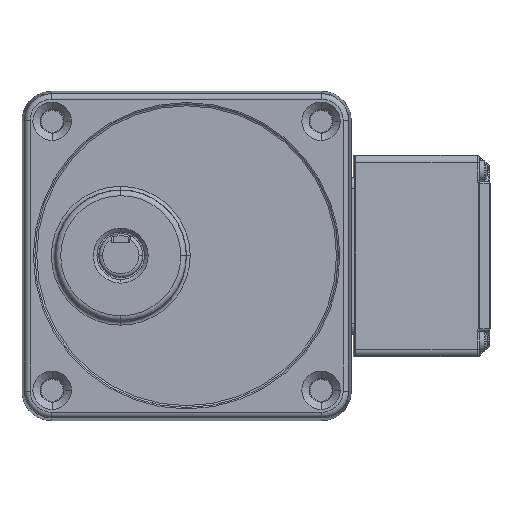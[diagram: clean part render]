
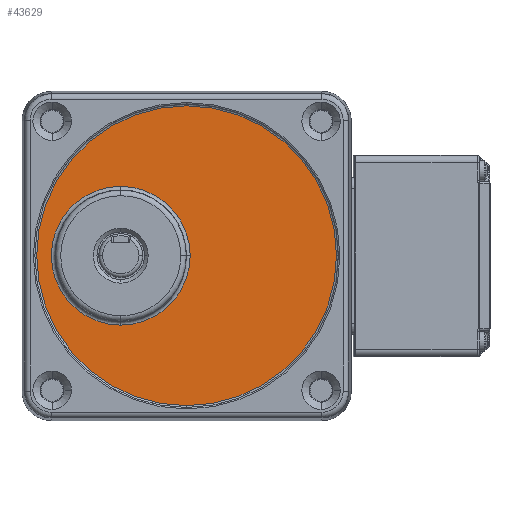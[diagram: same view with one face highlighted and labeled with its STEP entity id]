
A CAD part, top view. The second image highlights one B-rep face of the part: STEP entity #43629.
In plain terms, the highlighted planar face has unit normal (0, 0, 1) as drawn and (1, 0, 0) by its records, which use the part's own axes.
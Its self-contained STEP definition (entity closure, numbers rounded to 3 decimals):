
#70 = PLANE ( 'NONE',  #57368 ) ;
#2311 = CIRCLE ( 'NONE', #15522, 18.983 ) ;
#2531 = DIRECTION ( 'NONE',  ( 0., 0., 1. ) ) ;
#3160 = CARTESIAN_POINT ( 'NONE',  ( 2679.792, -734.166, 0. ) ) ;
#4169 = ORIENTED_EDGE ( 'NONE', *, *, #16646, .F. ) ;
#6686 = CARTESIAN_POINT ( 'NONE',  ( 2679.792, -775.157, 0. ) ) ;
#8370 = FACE_BOUND ( 'NONE', #57236, .T. ) ;
#10057 = VERTEX_POINT ( 'NONE', #53554 ) ;
#13819 = DIRECTION ( 'NONE',  ( 1., 0., 0. ) ) ;
#14478 = CARTESIAN_POINT ( 'NONE',  ( 2679.792, -793.157, 18.983 ) ) ;
#14582 = CARTESIAN_POINT ( 'NONE',  ( 2679.792, -775.157, 40.991 ) ) ;
#15522 = AXIS2_PLACEMENT_3D ( 'NONE', #36552, #45679, #23847 ) ;
#16209 = AXIS2_PLACEMENT_3D ( 'NONE', #18816, #13819, #36541 ) ;
#16300 = CARTESIAN_POINT ( 'NONE',  ( 2679.792, -793.157, -18.983 ) ) ;
#16646 = EDGE_CURVE ( 'NONE', #33487, #39822, #19887, .T. ) ;
#17674 = EDGE_CURVE ( 'NONE', #20891, #10057, #20013, .T. ) ;
#18816 = CARTESIAN_POINT ( 'NONE',  ( 2679.792, -793.157, 0. ) ) ;
#19615 = DIRECTION ( 'NONE',  ( 0., 0., -1. ) ) ;
#19887 = CIRCLE ( 'NONE', #50024, 40.991 ) ;
#20013 = CIRCLE ( 'NONE', #16209, 18.983 ) ;
#20025 = CIRCLE ( 'NONE', #26633, 40.991 ) ;
#20891 = VERTEX_POINT ( 'NONE', #16300 ) ;
#21372 = FACE_OUTER_BOUND ( 'NONE', #30770, .T. ) ;
#23758 = CARTESIAN_POINT ( 'NONE',  ( 2679.792, -793.157, 0. ) ) ;
#23847 = DIRECTION ( 'NONE',  ( 0., 0., 1. ) ) ;
#24052 = DIRECTION ( 'NONE',  ( 1., 0., 0. ) ) ;
#24131 = DIRECTION ( 'NONE',  ( 0., 0., 1. ) ) ;
#24970 = EDGE_CURVE ( 'NONE', #29337, #20891, #2311, .T. ) ;
#26633 = AXIS2_PLACEMENT_3D ( 'NONE', #56050, #28354, #41916 ) ;
#28354 = DIRECTION ( 'NONE',  ( -1., 0., 0. ) ) ;
#29337 = VERTEX_POINT ( 'NONE', #14478 ) ;
#30770 = EDGE_LOOP ( 'NONE', ( #33351, #4169, #41654 ) ) ;
#31111 = DIRECTION ( 'NONE',  ( 1., 0., 0. ) ) ;
#33351 = ORIENTED_EDGE ( 'NONE', *, *, #48840, .F. ) ;
#33487 = VERTEX_POINT ( 'NONE', #3160 ) ;
#33836 = ORIENTED_EDGE ( 'NONE', *, *, #17674, .F. ) ;
#33844 = DIRECTION ( 'NONE',  ( -1., 0., 0. ) ) ;
#35436 = ORIENTED_EDGE ( 'NONE', *, *, #57285, .F. ) ;
#36100 = CARTESIAN_POINT ( 'NONE',  ( 2679.792, -775.157, 0. ) ) ;
#36541 = DIRECTION ( 'NONE',  ( 0., 0., -1. ) ) ;
#36552 = CARTESIAN_POINT ( 'NONE',  ( 2679.792, -793.157, 0. ) ) ;
#39769 = AXIS2_PLACEMENT_3D ( 'NONE', #50984, #56259, #24131 ) ;
#39822 = VERTEX_POINT ( 'NONE', #41094 ) ;
#40394 = AXIS2_PLACEMENT_3D ( 'NONE', #23758, #24052, #19615 ) ;
#41094 = CARTESIAN_POINT ( 'NONE',  ( 2679.792, -775.157, -40.991 ) ) ;
#41274 = VERTEX_POINT ( 'NONE', #14582 ) ;
#41654 = ORIENTED_EDGE ( 'NONE', *, *, #48504, .F. ) ;
#41916 = DIRECTION ( 'NONE',  ( 0., 0., -1. ) ) ;
#43629 = ADVANCED_FACE ( 'NONE', ( #21372, #8370 ), #70, .T. ) ;
#45679 = DIRECTION ( 'NONE',  ( 1., 0., 0. ) ) ;
#48504 = EDGE_CURVE ( 'NONE', #41274, #33487, #52005, .T. ) ;
#48840 = EDGE_CURVE ( 'NONE', #39822, #41274, #20025, .T. ) ;
#50024 = AXIS2_PLACEMENT_3D ( 'NONE', #6686, #33844, #2531 ) ;
#50750 = CIRCLE ( 'NONE', #40394, 18.983 ) ;
#50984 = CARTESIAN_POINT ( 'NONE',  ( 2679.792, -775.157, 0. ) ) ;
#52005 = CIRCLE ( 'NONE', #39769, 40.991 ) ;
#52599 = ORIENTED_EDGE ( 'NONE', *, *, #24970, .F. ) ;
#53554 = CARTESIAN_POINT ( 'NONE',  ( 2679.792, -774.175, 0. ) ) ;
#56050 = CARTESIAN_POINT ( 'NONE',  ( 2679.792, -775.157, 0. ) ) ;
#56259 = DIRECTION ( 'NONE',  ( -1., 0., 0. ) ) ;
#57236 = EDGE_LOOP ( 'NONE', ( #33836, #52599, #35436 ) ) ;
#57285 = EDGE_CURVE ( 'NONE', #10057, #29337, #50750, .T. ) ;
#57368 = AXIS2_PLACEMENT_3D ( 'NONE', #36100, #31111, #57645 ) ;
#57645 = DIRECTION ( 'NONE',  ( 0., 1., 0. ) ) ;
